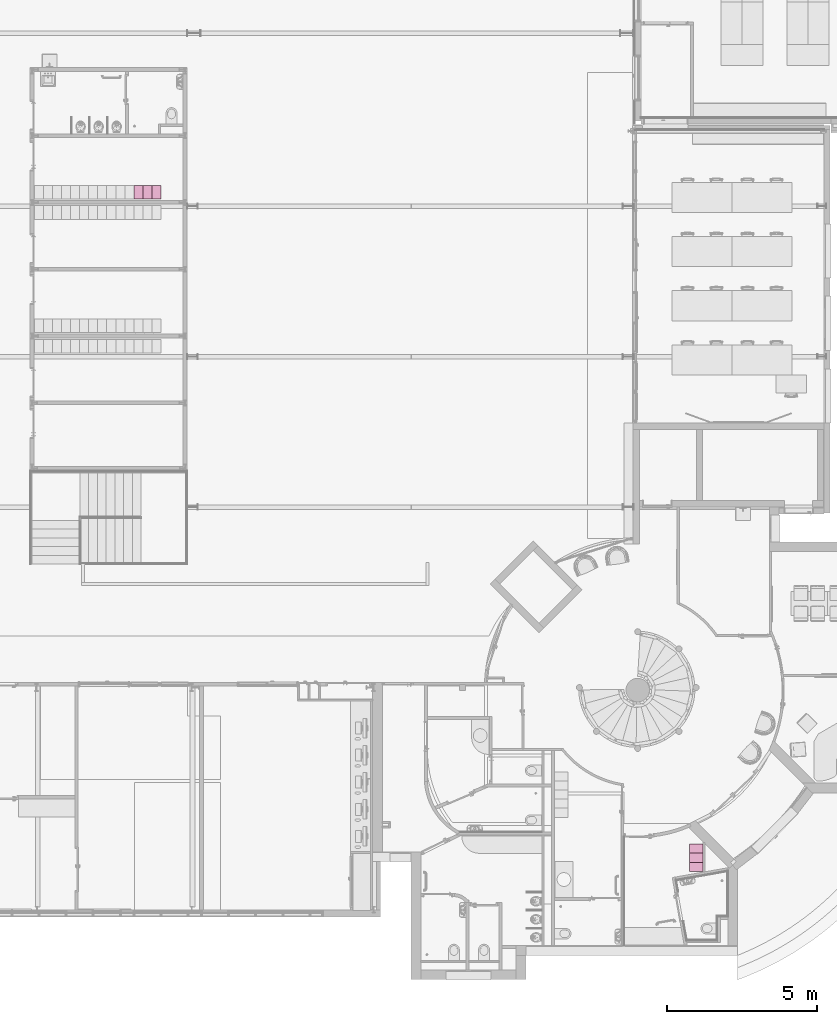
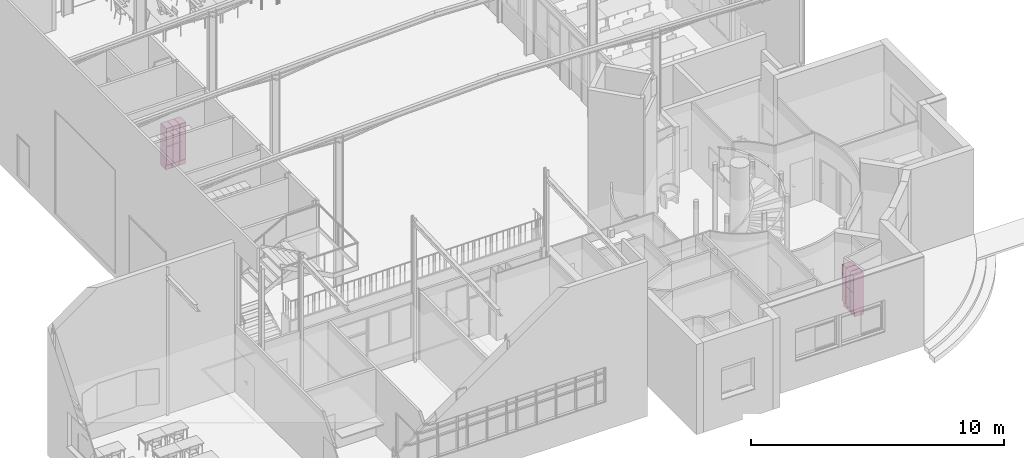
# One storey, part 121 of 137: 6 furnishings.
"""IFC2X3 building model written with IfcOpenShell, lengths in centimetres."""

import ifcopenshell
import ifcopenshell.guid

model = None  # the IFC model being written
_history = None  # IfcOwnerHistory: only IFC2X3 demands one
_inside = {}  # id of a spatial element -> (the spatial element, [elements in it])
_under = {}  # id of a project, library or spatial element -> (it, [spatial elements below it])
_declared = {}  # id of a project -> (the project, [libraries it declares])
_typed = {}  # id of a type object -> (the type object, [elements of that type])
_made_of = {}  # id of a material, layer set ... -> (it, [elements and type objects made of it])


def new_model(schema):
    """Start an empty IFC model of exactly this schema.

    Asked for "IFC4X3", IfcOpenShell would pick the latest addendum, in which some entities
    have other attributes; the version numbers below select the first issue.
    IFC2X3 requires an IfcOwnerHistory on every rooted entity: one is made here for all.
    """
    global model, _history
    if schema == "IFC4X3":
        model = ifcopenshell.file(schema_version=(4, 3, 0, 0))
    else:
        model = ifcopenshell.file(schema=schema)
    _inside.clear()
    _under.clear()
    _declared.clear()
    _typed.clear()
    _made_of.clear()
    _history = None
    if model.schema == "IFC2X3":
        org = make("IfcOrganization", Name="unknown")
        user = make(
            "IfcPersonAndOrganization",
            ThePerson=make("IfcPerson", FamilyName="unknown"),
            TheOrganization=org,
        )
        app = make(
            "IfcApplication",
            ApplicationDeveloper=org,
            Version="unknown",
            ApplicationFullName="unknown",
            ApplicationIdentifier="unknown",
        )
        _history = make(
            "IfcOwnerHistory",
            OwningUser=user,
            OwningApplication=app,
            ChangeAction="ADDED",
            CreationDate=0,
        )
    return model


def make(cls, **values):
    """One entity of the class cls with the attributes given. An attribute that is None is left unset."""
    return model.create_entity(
        cls, **{name: value for name, value in values.items() if value is not None}
    )


def entity(cls, *values):
    """Any entity or typed value of the class cls, its attributes in the order of the schema. None: left unset."""
    e = model.create_entity(cls)
    for i, value in enumerate(values):
        if value is not None:
            e[i] = value
    return e


def rooted(cls, **values):
    """An entity with a GlobalId (a new one), such as an element, a storey or a relation."""
    return make(cls, GlobalId=ifcopenshell.guid.new(), OwnerHistory=_history, **values)


def si_unit(unit_type, name, prefix=None):
    """IfcSIUnit, for example si_unit("LENGTHUNIT", "METRE", prefix="MILLI")."""
    return make("IfcSIUnit", UnitType=unit_type, Prefix=prefix, Name=name)


def converted_unit(unit_type, name, factor, base, dimensions=None, offset=None):
    """IfcConversionBasedUnit, such as the inch: factor (a typed value) times the base unit."""
    return make(
        "IfcConversionBasedUnit"
        if offset is None
        else "IfcConversionBasedUnitWithOffset",
        ConversionOffset=offset,
        Dimensions=None
        if dimensions is None
        else entity("IfcDimensionalExponents", *dimensions),
        UnitType=unit_type,
        Name=name,
        ConversionFactor=make(
            "IfcMeasureWithUnit", ValueComponent=factor, UnitComponent=base
        ),
    )


def derived_unit(unit_type, elements):
    """IfcDerivedUnit: a product of units, each with its exponent."""
    return make(
        "IfcDerivedUnit",
        Elements=[
            make("IfcDerivedUnitElement", Unit=unit, Exponent=power)
            for unit, power in elements
        ],
        UnitType=unit_type,
    )


def assignment(units):
    """IfcUnitAssignment: the units of a project."""
    return None if units is None else make("IfcUnitAssignment", Units=units)


def point(xyz):
    """IfcCartesianPoint."""
    return None if xyz is None else make("IfcCartesianPoint", Coordinates=xyz)


def direction(xyz):
    """IfcDirection."""
    return None if xyz is None else make("IfcDirection", DirectionRatios=xyz)


def frame(location, z_axis=None, x_axis=None):
    """IfcAxis2Placement3D, a coordinate frame: its origin and axes. An axis left out is left unset."""
    return make(
        "IfcAxis2Placement3D",
        Location=point(location),
        Axis=direction(z_axis),
        RefDirection=direction(x_axis),
    )


def origin():
    """The frame at (0, 0, 0) with its axes left unset."""
    return frame((0.0, 0.0, 0.0))


def place(relative_to, where):
    """IfcLocalPlacement: puts the frame where relative to a parent placement (None: the world)."""
    return make(
        "IfcLocalPlacement", PlacementRelTo=relative_to, RelativePlacement=where
    )


def context(
    kind, dimensions, precision=None, world=None, true_north=None, identifier=None
):
    """IfcGeometricRepresentationContext, for example the 3D "Model" context."""
    return make(
        "IfcGeometricRepresentationContext",
        ContextIdentifier=identifier,
        ContextType=kind,
        CoordinateSpaceDimension=dimensions,
        Precision=precision,
        WorldCoordinateSystem=world,
        TrueNorth=true_north,
    )


def subcontext(parent, identifier, kind, view, scale=None):
    """IfcGeometricRepresentationSubContext, for example "Body" below "Model"."""
    return make(
        "IfcGeometricRepresentationSubContext",
        ContextIdentifier=identifier,
        ContextType=kind,
        ParentContext=parent,
        TargetScale=scale,
        TargetView=view,
    )


def project(units=None, contexts=None):
    """IfcProject with its units and contexts."""
    return rooted(
        "IfcProject",
        Name="project",
        RepresentationContexts=contexts,
        UnitsInContext=assignment(units),
    )


def spatial(cls, under=None, at=None, **own):
    """A site, building, storey or space (cls), placed at a placement, below another one or the project."""
    s = rooted(cls, ObjectPlacement=at, **own)
    if under is not None:
        _under.setdefault(under.id(), (under, []))[1].append(s)
    return s


def faces_of(points, faces, orient=None, outer=None):
    """IfcFace entities. A face is a list of loops; a loop is a list of indices into points, from 0.

    orient and outer hold one flag for each loop. By default every Orientation is true, the
    first loop of a face is its IfcFaceOuterBound and the others are IfcFaceBound.
    """
    made = []
    for i, loops in enumerate(faces):
        bounds = []
        for j, loop in enumerate(loops):
            is_outer = j == 0 if outer is None else outer[i][j]
            bounds.append(
                make(
                    "IfcFaceOuterBound" if is_outer else "IfcFaceBound",
                    Bound=make("IfcPolyLoop", Polygon=[points[k] for k in loop]),
                    Orientation=True if orient is None else orient[i][j],
                )
            )
        made.append(make("IfcFace", Bounds=bounds))
    return made


def faceted_brep(points, faces, orient=None, outer=None, voids=None):
    """IfcFacetedBrep: a solid bounded by flat faces; with voids (closed shells), ...WithVoids."""
    shared = [point(p) for p in points]
    hull = make("IfcClosedShell", CfsFaces=faces_of(shared, faces, orient, outer))
    if voids is None:
        return make("IfcFacetedBrep", Outer=hull)
    return make(
        "IfcFacetedBrepWithVoids",
        Outer=hull,
        Voids=[
            make(cls, CfsFaces=faces_of(shared, fs, o, b)) for cls, fs, o, b in voids
        ],
    )


def shape(context_of_items, identifier, shape_type, items):
    """IfcShapeRepresentation: the items that make up one representation, for example the "Body"."""
    return make(
        "IfcShapeRepresentation",
        ContextOfItems=context_of_items,
        RepresentationIdentifier=identifier,
        RepresentationType=shape_type,
        Items=items,
    )


def source(mapping_origin, context_of_items, identifier, shape_type, items):
    """IfcRepresentationMap: a shape defined once, which mapped items show again and again."""
    return make(
        "IfcRepresentationMap",
        MappingOrigin=mapping_origin,
        MappedRepresentation=shape(context_of_items, identifier, shape_type, items),
    )


def transform(
    local_origin,
    x_axis=None,
    y_axis=None,
    z_axis=None,
    scale=None,
    scale2=None,
    scale3=None,
    uniform=True,
):
    """IfcCartesianTransformationOperator3D, or its non-uniform kind. x_axis, y_axis, z_axis: its Axis1, 2, 3."""
    if uniform:
        return make(
            "IfcCartesianTransformationOperator3D",
            Axis1=direction(x_axis),
            Axis2=direction(y_axis),
            LocalOrigin=point(local_origin),
            Scale=scale,
            Axis3=direction(z_axis),
        )
    return make(
        "IfcCartesianTransformationOperator3DnonUniform",
        Axis1=direction(x_axis),
        Axis2=direction(y_axis),
        LocalOrigin=point(local_origin),
        Scale=scale,
        Axis3=direction(z_axis),
        Scale2=scale2,
        Scale3=scale3,
    )


def mapped(mapping_source, mapping_target):
    """IfcMappedItem: shows the shape of a source again, moved by a transform."""
    return make(
        "IfcMappedItem", MappingSource=mapping_source, MappingTarget=mapping_target
    )


def material(Name=None, Category=None):
    """IfcMaterial."""
    return make("IfcMaterial", Name=Name, Category=Category)


def material_list(materials):
    """IfcMaterialList."""
    return make("IfcMaterialList", Materials=materials)


def made_of(thing, what):
    """Note that an element or type object is made of a material, layer set ...; save() writes the relation."""
    if what is not None:
        _made_of.setdefault(what.id(), (what, []))[1].append(thing)
    return thing


def type_object(cls, material=None, **own):
    """A type object (cls), such as IfcWallType, which elements share."""
    return made_of(rooted(cls, **own), material)


def type_shapes(of_type, sources):
    """Give a type object the sources (RepresentationMaps) that its elements show as mapped items."""
    of_type.RepresentationMaps = sources


def element(
    cls,
    number,
    at=None,
    inside=None,
    cuts=None,
    type_object=None,
    material=None,
    context=None,
    identifier="Body",
    shape_type=None,
    held_by="IfcProductDefinitionShape",
    body=None,
    shapes=None,
    **own,
):
    """One element of the class cls, such as IfcWall. Its Tag is "e" and its number.

    at: its placement. inside: the storey or other place that contains it. cuts: it is an
    opening in that element (IfcRelVoidsElement). A single representation is given by context,
    identifier, shape_type and body (its items); several are given by shapes. held_by: the class
    of the entity that holds the representations. save() writes the other relations.
    """
    e = rooted(cls, Tag="e%d" % number, ObjectPlacement=at, **own)
    if body is not None:
        shapes = [shape(context, identifier, shape_type, body)]
    if shapes is not None:
        e.Representation = make(held_by, Representations=shapes)
    if inside is not None:
        _inside.setdefault(inside.id(), (inside, []))[1].append(e)
    if cuts is not None:
        rooted(
            "IfcRelVoidsElement", RelatingBuildingElement=cuts, RelatedOpeningElement=e
        )
    if type_object is not None:
        _typed.setdefault(type_object.id(), (type_object, []))[1].append(e)
    return made_of(e, material)


def aggregate(whole, parts):
    """IfcRelAggregates: a whole, such as a stair, and the parts it consists of."""
    return rooted("IfcRelAggregates", RelatingObject=whole, RelatedObjects=parts)


def save(model, path):
    """Write the relations noted so far, then the file.

    IfcRelAggregates (storeys below a building ...), IfcRelContainedInSpatialStructure (elements
    in a storey), IfcRelDefinesByType, IfcRelAssociatesMaterial and IfcRelDeclares: one each for
    every whole, place, type object, material and project.
    """
    for whole, parts in _under.values():
        aggregate(whole, parts)
    for where, things in _inside.values():
        rooted(
            "IfcRelContainedInSpatialStructure",
            RelatedElements=things,
            RelatingStructure=where,
        )
    for kind, things in _typed.values():
        rooted("IfcRelDefinesByType", RelatedObjects=things, RelatingType=kind)
    for what, things in _made_of.values():
        rooted("IfcRelAssociatesMaterial", RelatedObjects=things, RelatingMaterial=what)
    for by, libraries in _declared.values():
        rooted("IfcRelDeclares", RelatingContext=by, RelatedDefinitions=libraries)
    model.write(path)


model = new_model("IFC2X3")

# Units and contexts
model_context = context("Model", 3, precision=0.001, world=origin(), true_north=direction((6.12303176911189e-17, 1.0)))
body_context = subcontext(model_context, "Body", "Model", "MODEL_VIEW")
ifc_project = project(units=[si_unit("LENGTHUNIT", "METRE", prefix="CENTI"), si_unit("AREAUNIT", "SQUARE_METRE"), si_unit("VOLUMEUNIT", "CUBIC_METRE"), converted_unit("PLANEANGLEUNIT", "DEGREE", entity("IfcRatioMeasure", 0.0174532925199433), si_unit("PLANEANGLEUNIT", "RADIAN"), dimensions=[0, 0, 0, 0, 0, 0, 0]), si_unit("MASSUNIT", "GRAM", prefix="KILO"), si_unit("TIMEUNIT", "SECOND"), si_unit("FREQUENCYUNIT", "HERTZ"), si_unit("THERMODYNAMICTEMPERATUREUNIT", "DEGREE_CELSIUS"), derived_unit("THERMALTRANSMITTANCEUNIT", [(si_unit("MASSUNIT", "GRAM", prefix="KILO"), 1), (si_unit("THERMODYNAMICTEMPERATUREUNIT", "KELVIN"), -1), (si_unit("TIMEUNIT", "SECOND"), -3)]), derived_unit("VOLUMETRICFLOWRATEUNIT", [(si_unit("LENGTHUNIT", "METRE"), 3), (si_unit("TIMEUNIT", "SECOND"), -1)]), si_unit("ELECTRICCURRENTUNIT", "AMPERE"), si_unit("ELECTRICVOLTAGEUNIT", "VOLT"), si_unit("POWERUNIT", "WATT"), si_unit("FORCEUNIT", "NEWTON", prefix="KILO"), si_unit("ILLUMINANCEUNIT", "LUX"), si_unit("LUMINOUSFLUXUNIT", "LUMEN"), si_unit("LUMINOUSINTENSITYUNIT", "CANDELA"), derived_unit("USERDEFINED", [(si_unit("MASSUNIT", "GRAM", prefix="KILO"), -1), (si_unit("LENGTHUNIT", "METRE"), -2), (si_unit("TIMEUNIT", "SECOND"), 3), (si_unit("LUMINOUSFLUXUNIT", "LUMEN"), 1)]), derived_unit("LINEARVELOCITYUNIT", [(si_unit("LENGTHUNIT", "METRE"), 1), (si_unit("TIMEUNIT", "SECOND"), -1)]), si_unit("PRESSUREUNIT", "PASCAL"), derived_unit("USERDEFINED", [(si_unit("LENGTHUNIT", "METRE"), -2), (si_unit("MASSUNIT", "GRAM", prefix="KILO"), 1), (si_unit("TIMEUNIT", "SECOND"), -2)])], contexts=[model_context])

# Site, building, storey, space
site_placement = place(None, frame((8.62739174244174, -249.285249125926, 0.0)))
site = spatial("IfcSite", under=ifc_project, at=site_placement, Name="Default", CompositionType="ELEMENT")
building_placement = place(site_placement, origin())
building = spatial("IfcBuilding", under=site, at=building_placement, CompositionType="ELEMENT")
storey_placement = place(building_placement, origin())
storey = spatial("IfcBuildingStorey", under=building, at=storey_placement, Name="RDC", CompositionType="ELEMENT", Elevation=-8.82465566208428e-11)
space_1_placement = place(storey_placement, origin())
space_1 = spatial("IfcSpace", under=storey, at=space_1_placement, Name="103", CompositionType="ELEMENT", InteriorOrExteriorSpace="INTERNAL")

# Furnishing
ifc_material_1 = material(Name="Peinture - Grise")
ifc_material_2 = material(Name="Peinture - Blanc")
ifc_material_list_1 = material_list([ifc_material_1, ifc_material_2])
ifc_material_list_2 = material_list([ifc_material_1, ifc_material_2])
furniture_type = type_object("IfcFurnitureType", Name="Casiers 1x2", AssemblyPlace="NOTDEFINED", material=ifc_material_list_2)
shared_shape = source(origin(), body_context, "Body", "Brep", [
    faceted_brep([(4.63888665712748, 0.299999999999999, 70.5824072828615), (4.96241046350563, 0.299999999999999, 70.6250000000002), (5.28593426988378, 0.299999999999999, 70.5824072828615), (5.58741046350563, 0.299999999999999, 70.4575317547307), (5.84629393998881, 0.299999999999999, 70.2588834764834), (6.04494221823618, 0.299999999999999, 70.0), (6.16981774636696, 0.299999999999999, 69.6985238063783), (6.21241046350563, 0.299999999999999, 69.3750000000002), (6.16981774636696, 0.299999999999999, 69.051476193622), (6.04494221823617, 0.299999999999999, 68.7500000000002), (5.84629393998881, 0.299999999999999, 68.491116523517), (5.58741046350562, 0.299999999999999, 68.2924682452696), (5.28593426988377, 0.299999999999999, 68.1675927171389), (4.96241046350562, 0.299999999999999, 68.1250000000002), (4.63888665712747, 0.299999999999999, 68.1675927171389), (4.33741046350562, 0.299999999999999, 68.2924682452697), (4.07852698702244, 0.299999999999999, 68.491116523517), (3.87987870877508, 0.299999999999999, 68.7500000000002), (3.75500318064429, 0.299999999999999, 69.0514761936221), (3.71241046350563, 0.299999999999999, 69.3750000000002), (3.75500318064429, 0.299999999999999, 69.6985238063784), (3.87987870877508, 0.299999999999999, 70.0), (4.07852698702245, 0.299999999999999, 70.2588834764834), (4.33741046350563, 0.299999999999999, 70.4575317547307), (5.28593426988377, 0.0, 68.1675927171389), (5.58741046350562, 0.0, 68.2924682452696), (5.84629393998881, 0.0, 68.491116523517), (6.04494221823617, 0.0, 68.7500000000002), (6.16981774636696, 0.0, 69.051476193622), (6.21241046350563, 0.0, 69.3750000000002), (6.16981774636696, 0.0, 69.6985238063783), (6.04494221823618, 0.0, 70.0), (5.84629393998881, 0.0, 70.2588834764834), (5.58741046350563, 0.0, 70.4575317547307), (5.28593426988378, 0.0, 70.5824072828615), (4.96241046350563, 0.0, 70.6250000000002), (4.63888665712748, 0.0, 70.5824072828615), (4.33741046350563, 0.0, 70.4575317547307), (4.07852698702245, 0.0, 70.2588834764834), (3.87987870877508, 0.0, 70.0), (3.75500318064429, 0.0, 69.6985238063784), (3.71241046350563, 0.0, 69.3750000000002), (3.75500318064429, 0.0, 69.0514761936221), (3.87987870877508, 0.0, 68.7500000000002), (4.07852698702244, 0.0, 68.491116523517), (4.33741046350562, 0.0, 68.2924682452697), (4.63888665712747, 0.0, 68.1675927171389), (4.96241046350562, 0.0, 68.1250000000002)], [[[0, 1, 2, 3, 4, 5, 6, 7, 8, 9, 10, 11, 12, 13, 14, 15, 16, 17, 18, 19, 20, 21, 22, 23]], [[24, 25, 26, 27, 28, 29, 30, 31, 32, 33, 34, 35, 36, 37, 38, 39, 40, 41, 42, 43, 44, 45, 46, 47]], [[18, 42, 41, 19]], [[17, 43, 42, 18]], [[45, 44, 16, 15]], [[17, 16, 44, 43]], [[46, 45, 15, 14]], [[47, 46, 14, 13]], [[12, 24, 47, 13]], [[11, 25, 24, 12]], [[27, 26, 10, 9]], [[11, 10, 26, 25]], [[28, 27, 9, 8]], [[29, 28, 8, 7]], [[6, 30, 29, 7]], [[5, 31, 30, 6]], [[33, 32, 4, 3]], [[5, 4, 32, 31]], [[34, 33, 3, 2]], [[35, 34, 2, 1]], [[0, 36, 35, 1]], [[23, 37, 36, 0]], [[39, 38, 22, 21]], [[23, 22, 38, 37]], [[40, 39, 21, 20]], [[41, 40, 20, 19]]]),
    faceted_brep([(5.58741046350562, 0.0, 157.042468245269), (5.84629393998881, 0.0, 157.241116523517), (6.04494221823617, 0.0, 157.5), (6.16981774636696, 0.0, 157.801476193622), (6.21241046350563, 0.0, 158.125), (6.16981774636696, 0.0, 158.448523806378), (6.04494221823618, 0.0, 158.75), (5.84629393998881, 0.0, 159.008883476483), (5.58741046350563, 0.0, 159.207531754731), (5.28593426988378, 0.0, 159.332407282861), (4.96241046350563, 0.0, 159.375), (4.63888665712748, 0.0, 159.332407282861), (4.33741046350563, 0.0, 159.207531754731), (4.07852698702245, 0.0, 159.008883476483), (3.87987870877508, 0.0, 158.75), (3.75500318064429, 0.0, 158.448523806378), (3.71241046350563, 0.0, 158.125), (3.75500318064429, 0.0, 157.801476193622), (3.87987870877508, 0.0, 157.5), (4.07852698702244, 0.0, 157.241116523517), (4.33741046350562, 0.0, 157.042468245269), (4.63888665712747, 0.0, 156.917592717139), (4.96241046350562, 0.0, 156.875), (5.28593426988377, 0.0, 156.917592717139), (5.58741046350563, 0.299999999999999, 159.207531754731), (5.84629393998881, 0.299999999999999, 159.008883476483), (6.04494221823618, 0.299999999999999, 158.75), (6.16981774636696, 0.299999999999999, 158.448523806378), (6.21241046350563, 0.299999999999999, 158.125), (6.16981774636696, 0.299999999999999, 157.801476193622), (6.04494221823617, 0.299999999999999, 157.5), (5.84629393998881, 0.299999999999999, 157.241116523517), (5.58741046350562, 0.299999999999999, 157.042468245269), (5.28593426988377, 0.299999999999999, 156.917592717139), (4.96241046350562, 0.299999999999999, 156.875), (4.63888665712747, 0.299999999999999, 156.917592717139), (4.33741046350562, 0.299999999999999, 157.042468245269), (4.07852698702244, 0.299999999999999, 157.241116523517), (3.87987870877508, 0.299999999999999, 157.5), (3.75500318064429, 0.299999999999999, 157.801476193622), (3.71241046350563, 0.299999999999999, 158.125), (3.75500318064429, 0.299999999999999, 158.448523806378), (3.87987870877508, 0.299999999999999, 158.75), (4.07852698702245, 0.299999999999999, 159.008883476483), (4.33741046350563, 0.299999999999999, 159.207531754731), (4.63888665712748, 0.299999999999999, 159.332407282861), (4.96241046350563, 0.299999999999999, 159.375), (5.28593426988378, 0.299999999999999, 159.332407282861)], [[[0, 1, 2, 3, 4, 5, 6, 7, 8, 9, 10, 11, 12, 13, 14, 15, 16, 17, 18, 19, 20, 21, 22, 23]], [[24, 25, 26, 27, 28, 29, 30, 31, 32, 33, 34, 35, 36, 37, 38, 39, 40, 41, 42, 43, 44, 45, 46, 47]], [[39, 17, 16, 40]], [[38, 18, 17, 39]], [[20, 19, 37, 36]], [[38, 37, 19, 18]], [[21, 20, 36, 35]], [[22, 21, 35, 34]], [[33, 23, 22, 34]], [[32, 0, 23, 33]], [[2, 1, 31, 30]], [[32, 31, 1, 0]], [[3, 2, 30, 29]], [[4, 3, 29, 28]], [[27, 5, 4, 28]], [[26, 6, 5, 27]], [[8, 7, 25, 24]], [[26, 25, 7, 6]], [[9, 8, 24, 47]], [[10, 9, 47, 46]], [[45, 11, 10, 46]], [[44, 12, 11, 45]], [[14, 13, 43, 42]], [[44, 43, 13, 12]], [[15, 14, 42, 41]], [[16, 15, 41, 40]]]),
    faceted_brep([(30.0, 45.3, 25.0), (0.0, 45.3, 25.0), (0.0, 5.3, 25.0), (30.0, 5.3, 25.0), (30.0, 45.3, 0.0), (30.0, 5.3, 0.0), (0.0, 5.3, 0.0), (0.0, 45.3, 0.0)], [[[0, 1, 2, 3]], [[4, 5, 6, 7]], [[1, 0, 4, 7]], [[2, 1, 7, 6]], [[3, 2, 6, 5]], [[0, 3, 5, 4]]]),
    faceted_brep([(28.1999999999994, 0.300000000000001, 200.7), (1.79999999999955, 0.300000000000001, 200.7), (1.79999999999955, 0.300000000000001, 115.55), (28.1999999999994, 0.300000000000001, 115.55), (28.1999999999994, 1.79999999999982, 200.7), (28.1999999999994, 1.79999999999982, 115.55), (1.79999999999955, 1.79999999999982, 115.55), (1.79999999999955, 1.79999999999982, 200.7)], [[[0, 1, 2, 3]], [[4, 5, 6, 7]], [[1, 0, 4, 7]], [[2, 1, 7, 6]], [[3, 2, 6, 5]], [[0, 3, 5, 4]]]),
    faceted_brep([(1.79999999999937, 0.300000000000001, 111.95), (28.1999999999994, 0.300000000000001, 111.95), (28.1999999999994, 1.79999999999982, 111.95), (1.79999999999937, 1.79999999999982, 111.95), (1.79999999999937, 0.300000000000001, 26.8000000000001), (1.79999999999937, 1.79999999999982, 26.8000000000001), (28.1999999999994, 0.300000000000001, 26.8000000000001), (28.1999999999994, 1.79999999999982, 26.8000000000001)], [[[0, 1, 2, 3]], [[4, 0, 3, 5]], [[6, 4, 5, 7]], [[1, 6, 7, 2]], [[2, 7, 5, 3]], [[1, 0, 4, 6]]]),
    faceted_brep([(30.0, 0.300000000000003, 25.0), (30.0, 45.3000000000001, 25.0), (30.0, 45.3000000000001, 202.5), (30.0, 0.300000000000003, 202.5), (0.0, 0.300000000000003, 25.0), (0.0, 0.300000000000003, 202.5), (0.0, 45.3000000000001, 202.5), (0.0, 45.3000000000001, 25.0), (28.4999999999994, 0.300000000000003, 26.5), (1.49999999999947, 0.300000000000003, 26.5), (1.49999999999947, 0.300000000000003, 112.25), (28.4999999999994, 0.300000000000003, 112.25), (28.4999999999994, 0.300000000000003, 115.25), (1.49999999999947, 0.300000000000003, 115.25), (1.49999999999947, 0.300000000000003, 201.0), (28.4999999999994, 0.300000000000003, 201.0), (28.4999999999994, 43.7999999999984, 26.5), (28.4999999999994, 43.7999999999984, 112.25), (1.49999999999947, 43.7999999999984, 112.25), (1.49999999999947, 43.7999999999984, 26.5), (28.4999999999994, 43.7999999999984, 115.25), (1.49999999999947, 43.7999999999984, 115.25), (1.49999999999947, 43.7999999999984, 201.0), (28.4999999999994, 43.7999999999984, 201.0)], [[[0, 1, 2, 3]], [[4, 5, 6, 7]], [[1, 0, 4, 7]], [[2, 1, 7, 6]], [[3, 2, 6, 5]], [[0, 3, 5, 4], [8, 9, 10, 11], [12, 13, 14, 15]], [[16, 17, 18, 19]], [[16, 19, 9, 8]], [[19, 18, 10, 9]], [[18, 17, 11, 10]], [[17, 16, 8, 11]], [[20, 21, 13, 12]], [[21, 22, 14, 13]], [[22, 23, 15, 14]], [[23, 20, 12, 15]], [[20, 23, 22, 21]]]),
])
type_shapes(furniture_type, [shared_shape])
furnishing_1_placement = place(space_1_placement, frame((3215.27666087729, 181.312132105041, 0.0), z_axis=(0.0, 0.0, 1.0), x_axis=(0.0, -1.0, 0.0)))
element("IfcFurnishingElement", 1, at=furnishing_1_placement, inside=space_1, type_object=furniture_type, material=ifc_material_list_1, Name="Casiers 1x2:Casiers 1x2", ObjectType="Casiers 1x2", context=body_context, shape_type="MappedRepresentation", body=[
    mapped(shared_shape, transform((0.0, 0.0, 0.0), scale=1.0)),
])

# Space
space_2_placement = place(storey_placement, origin())
space_2 = spatial("IfcSpace", under=storey, at=space_2_placement, Name="081", CompositionType="ELEMENT", InteriorOrExteriorSpace="INTERNAL")

# Furnishings
ifc_material_list_3 = material_list([ifc_material_1, ifc_material_2])
furnishing_2_placement = place(space_2_placement, frame((1428.90482780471, 2385.18020806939, 0.0)))
element("IfcFurnishingElement", 2, at=furnishing_2_placement, inside=space_2, type_object=furniture_type, material=ifc_material_list_3, Name="Casiers 1x2:Casiers 1x2", ObjectType="Casiers 1x2", context=body_context, shape_type="MappedRepresentation", body=[
    mapped(shared_shape, transform((0.0, 0.0, 0.0), scale=1.0)),
])
ifc_material_list_4 = material_list([ifc_material_1, ifc_material_2])
furnishing_3_placement = place(space_2_placement, frame((1398.90482780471, 2385.18020806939, 0.0)))
element("IfcFurnishingElement", 3, at=furnishing_3_placement, inside=space_2, type_object=furniture_type, material=ifc_material_list_4, Name="Casiers 1x2:Casiers 1x2", ObjectType="Casiers 1x2", context=body_context, shape_type="MappedRepresentation", body=[
    mapped(shared_shape, transform((0.0, 0.0, 0.0), scale=1.0)),
])
ifc_material_list_5 = material_list([ifc_material_1, ifc_material_2])
furnishing_4_placement = place(space_2_placement, frame((1368.90482780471, 2385.18020806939, 0.0)))
element("IfcFurnishingElement", 4, at=furnishing_4_placement, inside=space_2, type_object=furniture_type, material=ifc_material_list_5, Name="Casiers 1x2:Casiers 1x2", ObjectType="Casiers 1x2", context=body_context, shape_type="MappedRepresentation", body=[
    mapped(shared_shape, transform((0.0, 0.0, 0.0), scale=1.0)),
])
ifc_material_list_6 = material_list([ifc_material_1, ifc_material_2])
furnishing_5_placement = place(space_1_placement, frame((3215.27666087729, 211.312132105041, 0.0), z_axis=(0.0, 0.0, 1.0), x_axis=(0.0, -1.0, 0.0)))
element("IfcFurnishingElement", 5, at=furnishing_5_placement, inside=space_1, type_object=furniture_type, material=ifc_material_list_6, Name="Casiers 1x2:Casiers 1x2", ObjectType="Casiers 1x2", context=body_context, shape_type="MappedRepresentation", body=[
    mapped(shared_shape, transform((0.0, 0.0, 0.0), scale=1.0)),
])
ifc_material_list_7 = material_list([ifc_material_1, ifc_material_2])
furnishing_6_placement = place(space_1_placement, frame((3215.27666087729, 241.312132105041, 0.0), z_axis=(0.0, 0.0, 1.0), x_axis=(0.0, -1.0, 0.0)))
element("IfcFurnishingElement", 6, at=furnishing_6_placement, inside=space_1, type_object=furniture_type, material=ifc_material_list_7, Name="Casiers 1x2:Casiers 1x2", ObjectType="Casiers 1x2", context=body_context, shape_type="MappedRepresentation", body=[
    mapped(shared_shape, transform((0.0, 0.0, 0.0), scale=1.0)),
])

save(model, "model.ifc")
